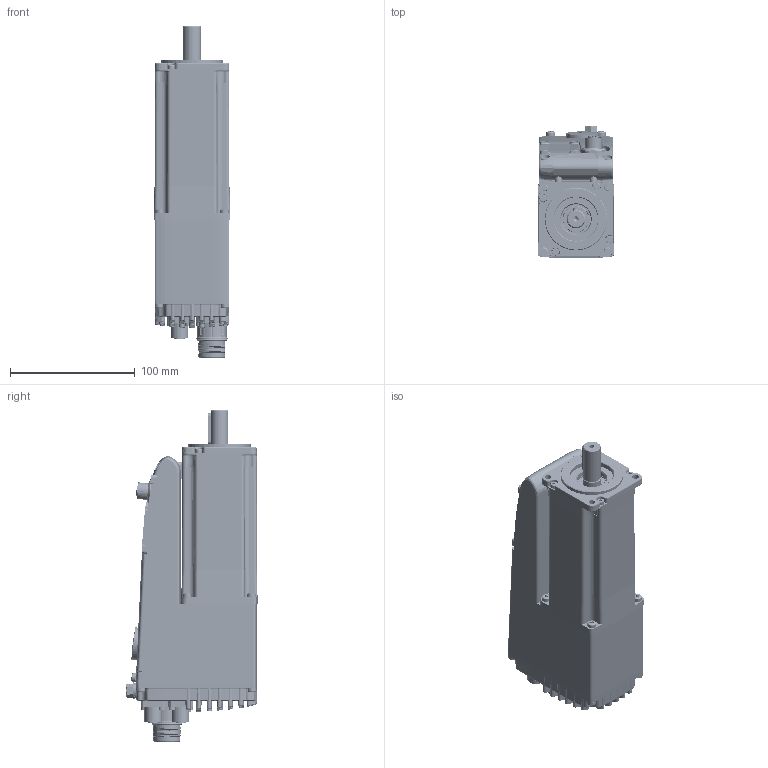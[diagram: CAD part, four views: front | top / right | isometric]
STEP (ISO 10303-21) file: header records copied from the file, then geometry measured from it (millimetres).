
FILE_DESCRIPTION(/* description */ ('Unknown'),/* implementation_level */ '2;1');
FILE_NAME(/* name */ 'DUET60 1,3 A1 0 E 0 (Q0C001)',/* time_stamp */ '2020-11-04T14:58:54+01:00',/* author */ ('Unknown'),/* organization */ ('Unknown'),/* preprocessor_version */ 'ST-DEVELOPER v16.7',/* originating_system */ 'DEX',/* authorisation */ $);
FILE_SCHEMA (('AUTOMOTIVE_DESIGN {1 0 10303 214 3 1 1}'));
Products named in the file (45): DUET60 1,3 A1 0 E 0 (Q0C001); 003251021030; 005123000690; 005123000690_0; 005123000690_1; 005123000690_2; 005123000690_3; 005123000690_4; 005123000690_5; 005123000690_6; 005755000060; 005751000100; 005123000100; 005123000100_0; 005123000100_1; 005123000100_2; 005123000100_3; 005123000100_4; 005123000100_5; 005911000198; 005113000400; 005008000740-oa1; 005008000744-oa2; MD031601.1.0; 005911000495; 003003199485; 003120003044; 052400000001; LC431503.0.0; J_4302729; J_7601000000; V_VTCTX3X10(8.8); J_7084943121; MD031604.0.0; V_RP6; MD031607.0.0; MD031608.0.0; V_VTCTX40X12A; V_VTCTXK30X8; MD031609.0.0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
Assembly tree (76 placements, depth 4):
  DUET60 1,3 A1 0 E 0 (Q0C001)
    003251021030
    005123000690
    005123000690_0
    005123000690_1
    005123000690_2
    005123000690_3
    005123000690_4
    005123000690_5
    005123000690_6
    005755000060
    005751000100
    005123000100
    005123000100_0
    005123000100_1
    005123000100_2
    005123000100_3
    005123000100_4
    005123000100_5
    005911000198  x4
    005113000400
    005008000740-oa1
    005008000744-oa2
    MD031601.1.0
    005911000495  x4
    003003199485
    003120003044
    052400000001
      LC431503.0.0
        J_4302729  x2
        J_7601000000
        V_VTCTX3X10(8.8)  x11
        J_7084943121
        MD031604.0.0
        V_RP6
      MD031607.0.0
      MD031608.0.0
      V_VTCTX40X12A  x12
      V_VTCTXK30X8  x5
      MD031609.0.0
      V_V027400610
      169692
      MD081003.2.0
      MD141520.0.0
      CONEC-43-01063
Bounding box: 61.32 x 105.22 x 265.8 mm (x, y, z)
Volume: 400006.7 mm3; surface area: 254619 mm2
Topology: 75 solids, 76 shells, 4309 faces, 10791 edges, 6835 vertices
Faces by surface type: plane 1811, cylinder 1113, bspline 564, cone 381, torus 361, sphere 79
Full cylindrical faces by diameter (mm): 0.8 x8, 0.9 x8, 1.1 x8, 1.2 x4, 1.3 x8, 1.4 x8, 1.5 x8, 1.7 x2, 2.2 x5, 2.4 x15, 2.459 x11, 2.5 x17, 3 x24, 3.2 x24, 3.242 x1, 3.3 x1, 3.4 x8, 3.5 x14, 4 x14, 4.2 x3, 4.5 x6, 5 x7, 5.5 x20, 5.6 x5, 6 x22, 6.4 x1, 7 x12, 8 x2, 9.99 x1, 10 x2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
Entity records: 147537 total; most frequent: CARTESIAN_POINT 46587, ORIENTED_EDGE 16914, DIRECTION 16400, EDGE_CURVE 8457, AXIS2_PLACEMENT_3D 6387, VERTEX_POINT 5667, FACE_BOUND 4632, EDGE_LOOP 4579
